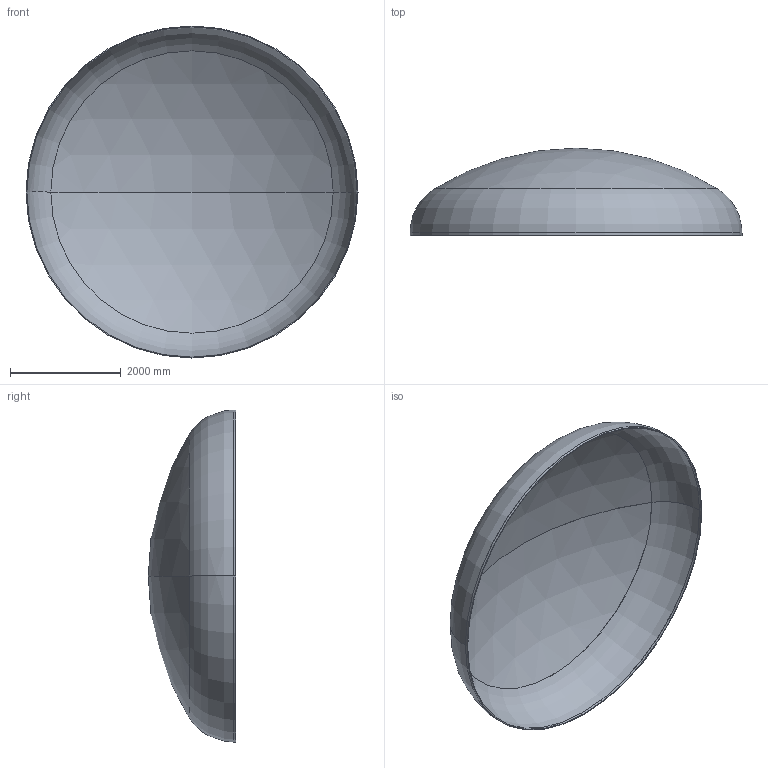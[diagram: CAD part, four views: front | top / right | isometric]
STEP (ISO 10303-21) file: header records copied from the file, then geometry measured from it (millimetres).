
FILE_DESCRIPTION (( 'STEP AP203' ), '1' );
FILE_NAME ('DIN 28013 Korbbogenform_-_Boden DIN 28013 - 6000 x 45 - I - s=15.step', '2016-07-04T10:35:51', ( '' ), ( '' ), 'SwSTEP 2.0', 'SolidWorks 2013', '' );
FILE_SCHEMA (( 'CONFIG_CONTROL_DESIGN' ));
Length unit declared in the file: millimetre
Products named in the file (1): DIN 28013 Korbbogenform_-_Boden DIN 28013 - 6000 x 45 - I - s=15
Bounding box: 6000 x 1577.92 x 6000 mm (x, y, z)
Volume: 598316718.8 mm3; surface area: 80058037.5 mm2
Topology: 1 solids, 1 shells, 13 faces, 24 edges, 14 vertices
Faces by surface type: torus 4, cylinder 4, sphere 4, plane 1
Entity records: 407 total; most frequent: DIRECTION 72, CARTESIAN_POINT 52, ORIENTED_EDGE 48, AXIS2_PLACEMENT_3D 34, EDGE_CURVE 24, CIRCLE 20, VERTEX_POINT 14, EDGE_LOOP 14
